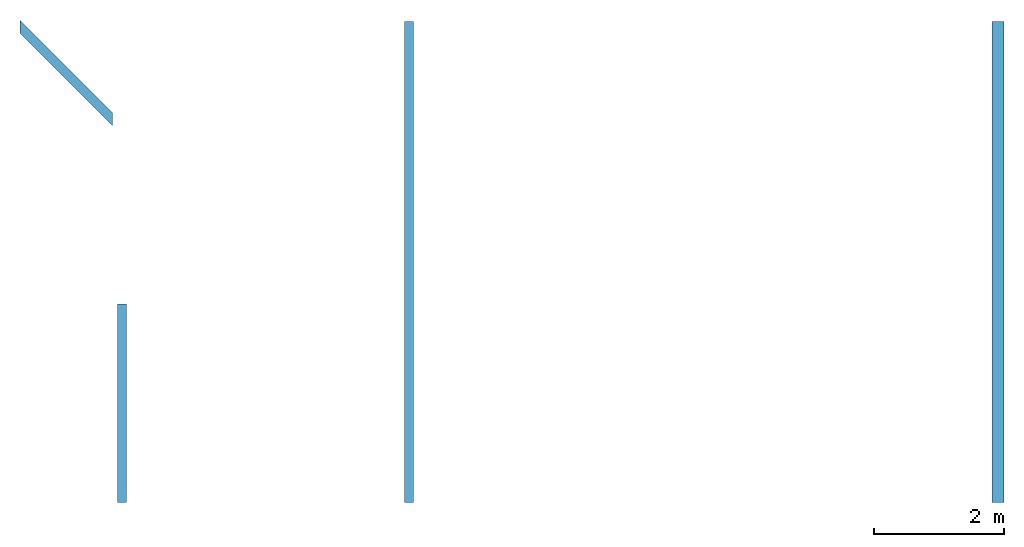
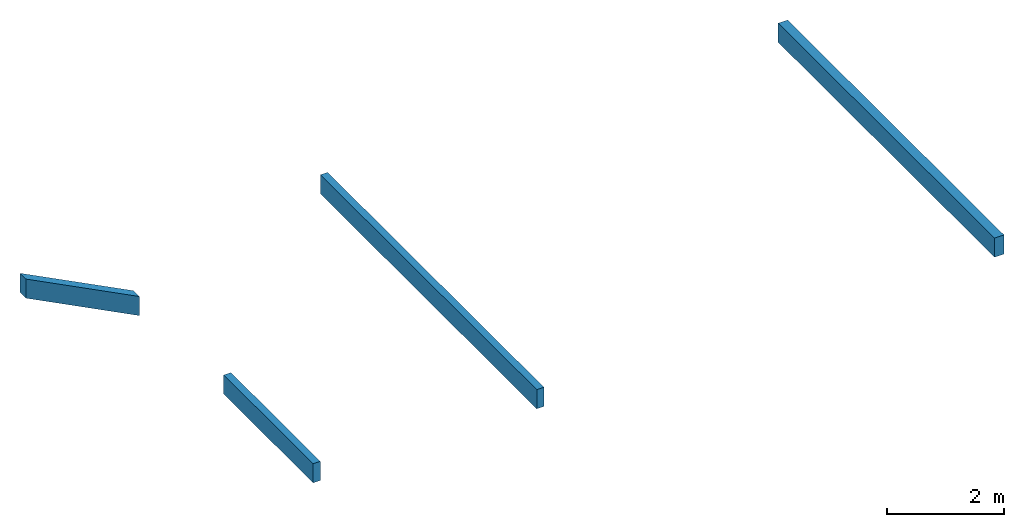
# One storey: 4 walls.
"""IFC2X3 building model written with IfcOpenShell, lengths in millimetres."""

import ifcopenshell
import ifcopenshell.guid

model = None  # the IFC model being written
_history = None  # IfcOwnerHistory: only IFC2X3 demands one
_inside = {}  # id of a spatial element -> (the spatial element, [elements in it])
_under = {}  # id of a project, library or spatial element -> (it, [spatial elements below it])
_declared = {}  # id of a project -> (the project, [libraries it declares])
_typed = {}  # id of a type object -> (the type object, [elements of that type])
_made_of = {}  # id of a material, layer set ... -> (it, [elements and type objects made of it])


def new_model(schema):
    """Start an empty IFC model of exactly this schema.

    Asked for "IFC4X3", IfcOpenShell would pick the latest addendum, in which some entities
    have other attributes; the version numbers below select the first issue.
    IFC2X3 requires an IfcOwnerHistory on every rooted entity: one is made here for all.
    """
    global model, _history
    if schema == "IFC4X3":
        model = ifcopenshell.file(schema_version=(4, 3, 0, 0))
    else:
        model = ifcopenshell.file(schema=schema)
    _inside.clear()
    _under.clear()
    _declared.clear()
    _typed.clear()
    _made_of.clear()
    _history = None
    if model.schema == "IFC2X3":
        org = make("IfcOrganization", Name="unknown")
        user = make(
            "IfcPersonAndOrganization",
            ThePerson=make("IfcPerson", FamilyName="unknown"),
            TheOrganization=org,
        )
        app = make(
            "IfcApplication",
            ApplicationDeveloper=org,
            Version="unknown",
            ApplicationFullName="unknown",
            ApplicationIdentifier="unknown",
        )
        _history = make(
            "IfcOwnerHistory",
            OwningUser=user,
            OwningApplication=app,
            ChangeAction="ADDED",
            CreationDate=0,
        )
    return model


def make(cls, **values):
    """One entity of the class cls with the attributes given. An attribute that is None is left unset."""
    return model.create_entity(
        cls, **{name: value for name, value in values.items() if value is not None}
    )


def entity(cls, *values):
    """Any entity or typed value of the class cls, its attributes in the order of the schema. None: left unset."""
    e = model.create_entity(cls)
    for i, value in enumerate(values):
        if value is not None:
            e[i] = value
    return e


def rooted(cls, **values):
    """An entity with a GlobalId (a new one), such as an element, a storey or a relation."""
    return make(cls, GlobalId=ifcopenshell.guid.new(), OwnerHistory=_history, **values)


def si_unit(unit_type, name, prefix=None):
    """IfcSIUnit, for example si_unit("LENGTHUNIT", "METRE", prefix="MILLI")."""
    return make("IfcSIUnit", UnitType=unit_type, Prefix=prefix, Name=name)


def converted_unit(unit_type, name, factor, base, dimensions=None, offset=None):
    """IfcConversionBasedUnit, such as the inch: factor (a typed value) times the base unit."""
    return make(
        "IfcConversionBasedUnit"
        if offset is None
        else "IfcConversionBasedUnitWithOffset",
        ConversionOffset=offset,
        Dimensions=None
        if dimensions is None
        else entity("IfcDimensionalExponents", *dimensions),
        UnitType=unit_type,
        Name=name,
        ConversionFactor=make(
            "IfcMeasureWithUnit", ValueComponent=factor, UnitComponent=base
        ),
    )


def derived_unit(unit_type, elements):
    """IfcDerivedUnit: a product of units, each with its exponent."""
    return make(
        "IfcDerivedUnit",
        Elements=[
            make("IfcDerivedUnitElement", Unit=unit, Exponent=power)
            for unit, power in elements
        ],
        UnitType=unit_type,
    )


def assignment(units):
    """IfcUnitAssignment: the units of a project."""
    return None if units is None else make("IfcUnitAssignment", Units=units)


def point(xyz):
    """IfcCartesianPoint."""
    return None if xyz is None else make("IfcCartesianPoint", Coordinates=xyz)


def direction(xyz):
    """IfcDirection."""
    return None if xyz is None else make("IfcDirection", DirectionRatios=xyz)


def frame(location, z_axis=None, x_axis=None):
    """IfcAxis2Placement3D, a coordinate frame: its origin and axes. An axis left out is left unset."""
    return make(
        "IfcAxis2Placement3D",
        Location=point(location),
        Axis=direction(z_axis),
        RefDirection=direction(x_axis),
    )


def origin_with_axes():
    """The frame at (0, 0, 0) with the z axis (0, 0, 1) and the x axis (1, 0, 0) written out."""
    return frame((0.0, 0.0, 0.0), z_axis=(0.0, 0.0, 1.0), x_axis=(1.0, 0.0, 0.0))


def place(relative_to, where):
    """IfcLocalPlacement: puts the frame where relative to a parent placement (None: the world)."""
    return make(
        "IfcLocalPlacement", PlacementRelTo=relative_to, RelativePlacement=where
    )


def context(
    kind, dimensions, precision=None, world=None, true_north=None, identifier=None
):
    """IfcGeometricRepresentationContext, for example the 3D "Model" context."""
    return make(
        "IfcGeometricRepresentationContext",
        ContextIdentifier=identifier,
        ContextType=kind,
        CoordinateSpaceDimension=dimensions,
        Precision=precision,
        WorldCoordinateSystem=world,
        TrueNorth=true_north,
    )


def subcontext(parent, identifier, kind, view, scale=None):
    """IfcGeometricRepresentationSubContext, for example "Body" below "Model"."""
    return make(
        "IfcGeometricRepresentationSubContext",
        ContextIdentifier=identifier,
        ContextType=kind,
        ParentContext=parent,
        TargetScale=scale,
        TargetView=view,
    )


def project(units=None, contexts=None):
    """IfcProject with its units and contexts."""
    return rooted(
        "IfcProject",
        Name="project",
        RepresentationContexts=contexts,
        UnitsInContext=assignment(units),
    )


def spatial(cls, under=None, at=None, **own):
    """A site, building, storey or space (cls), placed at a placement, below another one or the project."""
    s = rooted(cls, ObjectPlacement=at, **own)
    if under is not None:
        _under.setdefault(under.id(), (under, []))[1].append(s)
    return s


def faces_of(points, faces, orient=None, outer=None):
    """IfcFace entities. A face is a list of loops; a loop is a list of indices into points, from 0.

    orient and outer hold one flag for each loop. By default every Orientation is true, the
    first loop of a face is its IfcFaceOuterBound and the others are IfcFaceBound.
    """
    made = []
    for i, loops in enumerate(faces):
        bounds = []
        for j, loop in enumerate(loops):
            is_outer = j == 0 if outer is None else outer[i][j]
            bounds.append(
                make(
                    "IfcFaceOuterBound" if is_outer else "IfcFaceBound",
                    Bound=make("IfcPolyLoop", Polygon=[points[k] for k in loop]),
                    Orientation=True if orient is None else orient[i][j],
                )
            )
        made.append(make("IfcFace", Bounds=bounds))
    return made


def faceted_brep(points, faces, orient=None, outer=None, voids=None):
    """IfcFacetedBrep: a solid bounded by flat faces; with voids (closed shells), ...WithVoids."""
    shared = [point(p) for p in points]
    hull = make("IfcClosedShell", CfsFaces=faces_of(shared, faces, orient, outer))
    if voids is None:
        return make("IfcFacetedBrep", Outer=hull)
    return make(
        "IfcFacetedBrepWithVoids",
        Outer=hull,
        Voids=[
            make(cls, CfsFaces=faces_of(shared, fs, o, b)) for cls, fs, o, b in voids
        ],
    )


def shape(context_of_items, identifier, shape_type, items):
    """IfcShapeRepresentation: the items that make up one representation, for example the "Body"."""
    return make(
        "IfcShapeRepresentation",
        ContextOfItems=context_of_items,
        RepresentationIdentifier=identifier,
        RepresentationType=shape_type,
        Items=items,
    )


def material(Name=None, Category=None):
    """IfcMaterial."""
    return make("IfcMaterial", Name=Name, Category=Category)


def layer(
    of_material, thickness, ventilated=None, Name=None, Category=None, Priority=None
):
    """IfcMaterialLayer: one layer of a wall or slab, of a material (None: an air gap)."""
    return make(
        "IfcMaterialLayer",
        Material=of_material,
        LayerThickness=thickness,
        IsVentilated=ventilated,
        Name=Name,
        Category=Category,
        Priority=Priority,
    )


def layer_set(layers, Name=None):
    """IfcMaterialLayerSet."""
    return make("IfcMaterialLayerSet", MaterialLayers=layers, LayerSetName=Name)


def made_of(thing, what):
    """Note that an element or type object is made of a material, layer set ...; save() writes the relation."""
    if what is not None:
        _made_of.setdefault(what.id(), (what, []))[1].append(thing)
    return thing


def type_object(cls, material=None, **own):
    """A type object (cls), such as IfcWallType, which elements share."""
    return made_of(rooted(cls, **own), material)


def element(
    cls,
    number,
    at=None,
    inside=None,
    cuts=None,
    type_object=None,
    material=None,
    context=None,
    identifier="Body",
    shape_type=None,
    held_by="IfcProductDefinitionShape",
    body=None,
    shapes=None,
    **own,
):
    """One element of the class cls, such as IfcWall. Its Tag is "e" and its number.

    at: its placement. inside: the storey or other place that contains it. cuts: it is an
    opening in that element (IfcRelVoidsElement). A single representation is given by context,
    identifier, shape_type and body (its items); several are given by shapes. held_by: the class
    of the entity that holds the representations. save() writes the other relations.
    """
    e = rooted(cls, Tag="e%d" % number, ObjectPlacement=at, **own)
    if body is not None:
        shapes = [shape(context, identifier, shape_type, body)]
    if shapes is not None:
        e.Representation = make(held_by, Representations=shapes)
    if inside is not None:
        _inside.setdefault(inside.id(), (inside, []))[1].append(e)
    if cuts is not None:
        rooted(
            "IfcRelVoidsElement", RelatingBuildingElement=cuts, RelatedOpeningElement=e
        )
    if type_object is not None:
        _typed.setdefault(type_object.id(), (type_object, []))[1].append(e)
    return made_of(e, material)


def aggregate(whole, parts):
    """IfcRelAggregates: a whole, such as a stair, and the parts it consists of."""
    return rooted("IfcRelAggregates", RelatingObject=whole, RelatedObjects=parts)


def save(model, path):
    """Write the relations noted so far, then the file.

    IfcRelAggregates (storeys below a building ...), IfcRelContainedInSpatialStructure (elements
    in a storey), IfcRelDefinesByType, IfcRelAssociatesMaterial and IfcRelDeclares: one each for
    every whole, place, type object, material and project.
    """
    for whole, parts in _under.values():
        aggregate(whole, parts)
    for where, things in _inside.values():
        rooted(
            "IfcRelContainedInSpatialStructure",
            RelatedElements=things,
            RelatingStructure=where,
        )
    for kind, things in _typed.values():
        rooted("IfcRelDefinesByType", RelatedObjects=things, RelatingType=kind)
    for what, things in _made_of.values():
        rooted("IfcRelAssociatesMaterial", RelatedObjects=things, RelatingMaterial=what)
    for by, libraries in _declared.values():
        rooted("IfcRelDeclares", RelatingContext=by, RelatedDefinitions=libraries)
    model.write(path)


model = new_model("IFC2X3")

# Units and contexts
model_context = context("Model", 3, precision=0.01, world=frame((0.0, 4.29681676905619e-09, 0.0)), true_north=direction((4.01073788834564e-13, 1.0)))
plan_context = context("Plan", 3, precision=0.01, world=frame((0.0, 4.29681676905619e-09, 0.0)), true_north=direction((4.01073788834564e-13, 1.0)))
body_context = subcontext(model_context, "Body", "Model", "MODEL_VIEW")
ifc_project = project(units=[converted_unit("PLANEANGLEUNIT", "DEGREE", entity("IfcPositiveLengthMeasure", 0.0174532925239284), si_unit("PLANEANGLEUNIT", "RADIAN"), dimensions=[0, 0, 0, 0, 0, 0, 0]), si_unit("AREAUNIT", "SQUARE_METRE"), si_unit("LENGTHUNIT", "METRE", prefix="MILLI"), si_unit("MASSUNIT", "GRAM", prefix="KILO"), si_unit("POWERUNIT", "WATT"), si_unit("PRESSUREUNIT", "PASCAL", prefix="KILO"), si_unit("FORCEUNIT", "NEWTON", prefix="KILO"), si_unit("ELECTRICVOLTAGEUNIT", "VOLT"), si_unit("ELECTRICCURRENTUNIT", "AMPERE"), si_unit("THERMODYNAMICTEMPERATUREUNIT", "DEGREE_CELSIUS"), si_unit("TIMEUNIT", "SECOND"), si_unit("VOLUMEUNIT", "CUBIC_METRE"), derived_unit("LINEARVELOCITYUNIT", [(si_unit("LENGTHUNIT", "METRE"), 1), (si_unit("TIMEUNIT", "SECOND"), -1)]), derived_unit("VOLUMETRICFLOWRATEUNIT", [(si_unit("VOLUMEUNIT", "CUBIC_METRE"), 1), (si_unit("TIMEUNIT", "SECOND"), -1)]), derived_unit("THERMALTRANSMITTANCEUNIT", [(si_unit("POWERUNIT", "WATT"), 1), (si_unit("THERMODYNAMICTEMPERATUREUNIT", "KELVIN"), -1), (si_unit("AREAUNIT", "SQUARE_METRE"), -1)]), derived_unit("SOUNDPRESSUREUNIT", [(si_unit("PRESSUREUNIT", "PASCAL"), 1)])], contexts=[model_context, plan_context])

# Site, building, storey
site_placement = place(None, origin_with_axes())
site = spatial("IfcSite", under=ifc_project, at=site_placement, Name="ENGM", CompositionType="ELEMENT")
building_placement = place(site_placement, origin_with_axes())
building = spatial("IfcBuilding", under=site, at=building_placement, Name="TS", CompositionType="ELEMENT")
storey_placement = place(building_placement, frame((0.0, 0.0, 202330.0), z_axis=(0.0, 0.0, 1.0), x_axis=(1.0, 0.0, 0.0)))
storey = spatial("IfcBuildingStorey", under=building, at=storey_placement, Name="Nivå C + 2,03 m", CompositionType="ELEMENT", Elevation=202330.0)

# Walls
ifc_material = material(Name="Betong - Multiblokk")
ifc_layer_1 = layer(ifc_material, 142.0)
ifc_layer_set_1 = layer_set([ifc_layer_1], Name="Basic Wall:A241 - MK-142 (Multiblokk 142)")
wall_type_1 = type_object("IfcWallType", Name="Basic Wall:A241 - MK-142 (Multiblokk 142)", PredefinedType="STANDARD", material=ifc_layer_set_1)
wall_1_placement = place(storey_placement, frame((594520.795418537, 405479.204581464, 0.0), z_axis=(0.0, 0.0, 1.0), x_axis=(0.707106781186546, -0.707106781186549, 0.0)))
element("IfcWall", 1, at=wall_1_placement, inside=storey, type_object=wall_type_1, Name="Basic Wall:A241 - MK-142 (Multiblokk 142)", ObjectType="Basic Wall:A241 - MK-142 (Multiblokk 142)", context=body_context, shape_type="Brep", body=[
    faceted_brep([(2657.88592746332, -71.0, 670.0), (643.338707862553, -71.0, 670.0), (643.338707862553, -71.0, 1070.0), (2657.88592746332, -71.0, 1070.0), (2515.8859274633, 71.0, 670.0), (2515.8859274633, 71.0, 1070.0), (501.338707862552, 71.0, 1070.0), (501.338707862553, 70.9999999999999, 670.0)], [[[0, 1, 2, 3]], [[4, 0, 3, 5]], [[6, 7, 4, 5]], [[2, 6, 5, 3]], [[7, 6, 2, 1]], [[1, 0, 4, 7]]], orient=[[False], [False], [False], [False], [False], [False]]),
])
ifc_layer_2 = layer(ifc_material, 187.0)
ifc_layer_set_2 = layer_set([ifc_layer_2], Name="Basic Wall:A241 - MH-187 (Multiblokk 187)")
wall_type_2 = type_object("IfcWallType", Name="Basic Wall:A241 - MH-187 (Multiblokk 187)", PredefinedType="STANDARD", material=ifc_layer_set_2)
wall_2_placement = place(storey_placement, frame((610000.000000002, 396850.0, 0.0), z_axis=(0.0, 0.0, 1.0), x_axis=(0.0, 1.0, 0.0)))
element("IfcWall", 2, at=wall_2_placement, inside=storey, type_object=wall_type_2, Name="Basic Wall:A241 - MH-187 (Multiblokk 187)", ObjectType="Basic Wall:A241 - MH-187 (Multiblokk 187)", context=body_context, shape_type="Brep", body=[
    faceted_brep([(8300.00000000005, 93.5000000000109, 670.0), (8300.00000000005, -93.4999999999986, 670.0), (8300.00000000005, -93.4999999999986, 1070.0), (8300.00000000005, 93.5000000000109, 1070.0), (886.500000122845, 93.5000000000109, 1070.0), (886.500000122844, 93.5000000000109, 670.0), (886.500000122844, -93.4999999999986, 670.0), (886.500000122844, -93.4999999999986, 1070.0)], [[[0, 1, 2, 3]], [[4, 5, 0, 3]], [[1, 6, 7, 2]], [[7, 4, 3, 2]], [[5, 4, 7, 6]], [[6, 1, 0, 5]]], orient=[[False], [False], [False], [False], [False], [False]]),
])
ifc_layer_3 = layer(ifc_material, 142.0)
ifc_layer_set_3 = layer_set([ifc_layer_3], Name="Basic Wall:A241 - MH-142 (Multiblokk 142)")
wall_type_3 = type_object("IfcWallType", Name="Basic Wall:A241 - MH-142 (Multiblokk 142)", PredefinedType="STANDARD", material=ifc_layer_set_3)
wall_3_placement = place(storey_placement, frame((600924.0, 405149.999999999, 0.0), z_axis=(0.0, 0.0, 1.0), x_axis=(0.0, -1.0, 0.0)))
element("IfcWall", 3, at=wall_3_placement, inside=storey, type_object=wall_type_3, Name="Basic Wall:A241 - MH-142 (Multiblokk 142)", ObjectType="Basic Wall:A241 - MH-142 (Multiblokk 142)", context=body_context, shape_type="Brep", body=[
    faceted_brep([(0.0, 70.9999999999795, 670.0), (7413.49999987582, 70.9999999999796, 670.0), (7413.49999987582, 70.9999999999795, 1070.0), (0.0, 70.9999999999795, 1070.0), (0.0, -71.0000000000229, 670.0), (0.0, -71.0000000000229, 1070.0), (7413.49999987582, -71.0000000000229, 1070.0), (7413.49999987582, -71.0000000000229, 670.0)], [[[0, 1, 2, 3]], [[4, 0, 3, 5]], [[6, 7, 4, 5]], [[2, 6, 5, 3]], [[7, 6, 2, 1]], [[1, 0, 4, 7]]], orient=[[False], [False], [False], [False], [False], [False]]),
])
wall_4_placement = place(storey_placement, frame((596500.000000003, 396293.262500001, 0.0), z_axis=(0.0, 0.0, 1.0), x_axis=(0.0, 1.0, 0.0)))
element("IfcWall", 4, at=wall_4_placement, inside=storey, type_object=wall_type_3, Name="Basic Wall:A241 - MH-142 (Multiblokk 142)", ObjectType="Basic Wall:A241 - MH-142 (Multiblokk 142)", context=body_context, shape_type="Brep", body=[
    faceted_brep([(4506.29999999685, -71.0000000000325, 670.0), (1443.23750012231, -71.0000000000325, 670.0), (1443.23750012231, -71.0000000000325, 1070.0), (4506.29999999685, -71.0000000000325, 1070.0), (4506.29999999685, 70.9999999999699, 670.0), (4506.29999999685, 70.9999999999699, 1070.0), (1443.23750012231, 70.9999999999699, 1070.0), (1443.23750012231, 70.9999999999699, 670.0)], [[[0, 1, 2, 3]], [[4, 0, 3, 5]], [[6, 7, 4, 5]], [[2, 6, 5, 3]], [[7, 6, 2, 1]], [[1, 0, 4, 7]]], orient=[[False], [False], [False], [False], [False], [False]]),
])

save(model, "model.ifc")
